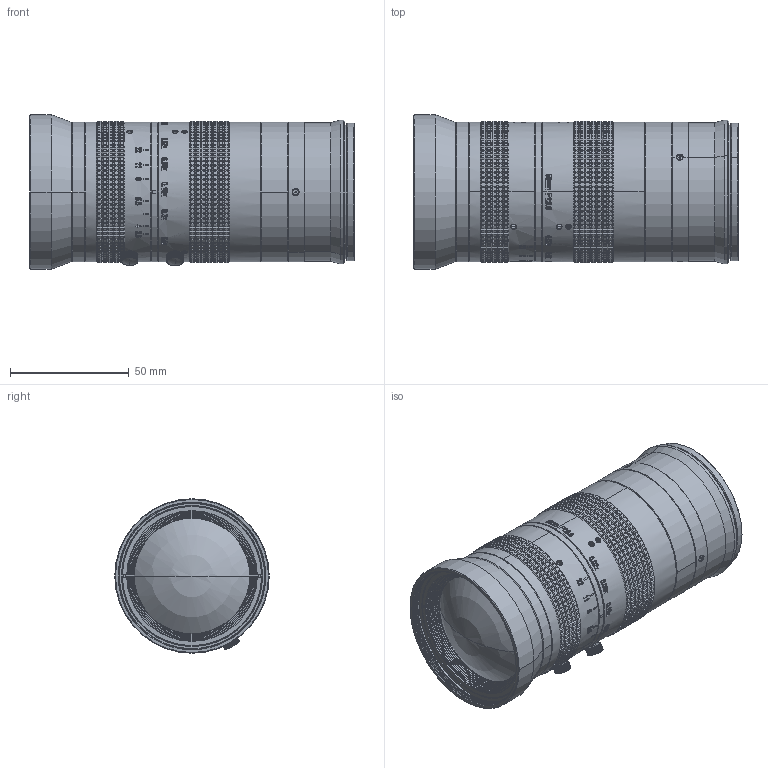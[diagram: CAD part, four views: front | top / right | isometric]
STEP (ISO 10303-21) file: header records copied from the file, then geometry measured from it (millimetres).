
FILE_DESCRIPTION((''),'2;1');
FILE_NAME('200_ASM','2025-06-30T',('Administrator'),(''),'PRO/ENGINEER BY PARAMETRIC TECHNOLOGY CORPORATION, 2010020','PRO/ENGINEER BY PARAMETRIC TECHNOLOGY CORPORATION, 2010020','');
FILE_SCHEMA(('AUTOMOTIVE_DESIGN_CC2 { 1 2 10303 214 -1 1 5 2 }'));
Length unit declared in the file: millimetre
Products named in the file (100): 505_AF0; 507_AF0; 518_AF0; 508_AF0; 509_AF0; 506; 501_AF0; 305_AF0; 513_AF0; 304_AF0; 512_AF0; 303_AF0; 302_AF0; 301_AF0; 511; 201_AF0_ASM; 503_AF0; MA170-02-02_AF0; MB5MP-02-04________AF0; MB5MP-02-04________AF1; MA170-01-02_AF0_ASM; MA170-02-04_AF0; MA170-02-02_AF1; MB5MP-02-04________AF2; MB5MP-02-04________AF3; MA170-01-02_AF1_ASM; MA170-02-02_AF2; MB5MP-02-04________AF4; MB5MP-02-04________AF5; MA170-01-02_AF2_ASM; MA170-02-02_AF3; MB5MP-02-04________AF6; MB5MP-02-04________AF7; MA170-01-02_AF3_ASM; MA170-02-02_AF4; MB5MP-02-04________AF8; MB5MP-02-04________AF9; MA170-01-02_AF4_ASM; MA170-02-02_AF5; MB5MP-02-04________AF10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
Assembly tree (101 placements, depth 5):
  200_ASM
    505_AF0
    507_AF0
    518_AF0
    508_AF0
    509_AF0
    506
    201_AF0_ASM
      501_AF0
      305_AF0
      513_AF0
      304_AF0
      512_AF0
      303_AF0
      302_AF0
      301_AF0
      511
    203_AF0_ASM
      503_AF0
      ASM0001_AF0_ASM
        MA170-01-02_AF0_ASM
          MA170-02-02_AF0
          MB5MP-02-04________AF0
          MB5MP-02-04________AF1
        MA170-02-04_AF0
        MA170-01-02_AF1_ASM
          MA170-02-02_AF1
          MB5MP-02-04________AF2
          MB5MP-02-04________AF3
        MA170-01-02_AF2_ASM
          MA170-02-02_AF2
          MB5MP-02-04________AF4
          MB5MP-02-04________AF5
        MA170-01-02_AF3_ASM
          MA170-02-02_AF3
          MB5MP-02-04________AF6
          MB5MP-02-04________AF7
        MA170-01-02_AF4_ASM
          MA170-02-02_AF4
          MB5MP-02-04________AF8
          MB5MP-02-04________AF9
        MA170-01-02_AF5_ASM
          MA170-02-02_AF5
          MB5MP-02-04________AF10
          MB5MP-02-04________AF11
        MA170-01-02_AF6_ASM
          MA170-02-02_AF6
          MB5MP-02-04________AF12
          MB5MP-02-04________AF13
        MA170-01-02_AF7_ASM
          MA170-02-02_AF7
          MB5MP-02-04________AF14
          MB5MP-02-04________AF15
        MA170-02-07_AF0
        MA170-01-02_AF8_ASM
          MA170-02-02_AF8
          MB5MP-02-04________AF16
          MB5MP-02-04________AF17
        MA170-01-02_AF9_ASM
          MA170-02-02_AF9
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Bounding box: 136.74 x 65 x 65 mm (x, y, z)
Volume: 94808.3 mm3; surface area: 85586.3 mm2
Topology: 28 solids, 28 shells, 7547 faces, 16714 edges, 9331 vertices
Faces by surface type: plane 2769, cone 2559, cylinder 1515, bspline 537, extrusion 139, torus 20, sphere 8
Entity records: 291674 total; most frequent: CARTESIAN_POINT 85920, ORIENTED_EDGE 33284, DIRECTION 29589, PRESENTATION_STYLE_ASSIGNMENT 16687, EDGE_CURVE 16642, STYLED_ITEM 16633, CURVE_STYLE 16608, AXIS2_PLACEMENT_3D 12029
